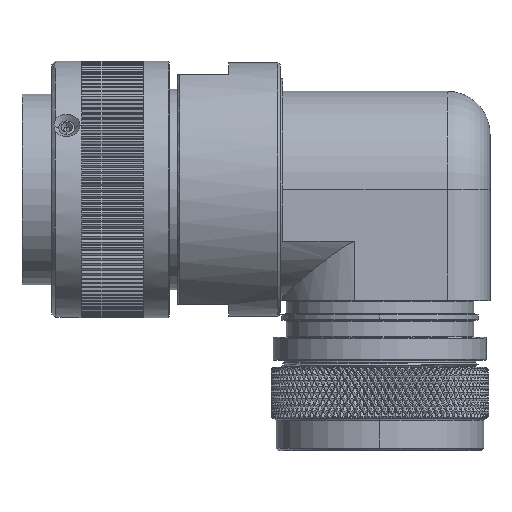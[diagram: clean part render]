
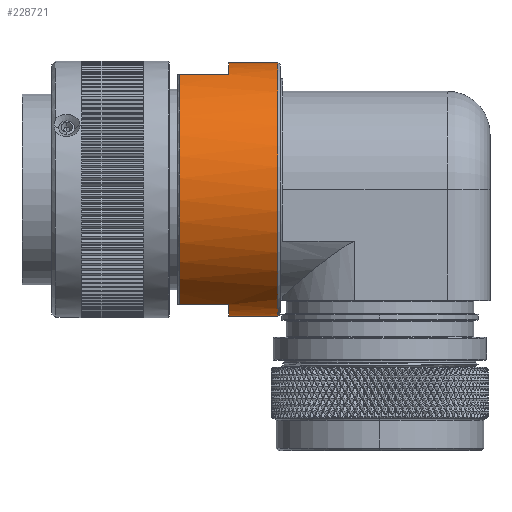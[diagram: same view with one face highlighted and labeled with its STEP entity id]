
A CAD part, top view. The second image highlights one B-rep face of the part: STEP entity #228721.
In plain terms, the highlighted cylindrical face has radius 29.75 mm (diameter 59.5 mm), a partial arc.
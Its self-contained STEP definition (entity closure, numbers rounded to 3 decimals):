
#78789=CARTESIAN_POINT('',(48.5,0.,0.));
#78790=DIRECTION('',(1.,0.,0.));
#78791=DIRECTION('',(0.,1.,0.));
#78792=AXIS2_PLACEMENT_3D('',#78789,#78790,#78791);
#78794=CARTESIAN_POINT('',(60.,0.,0.));
#78795=DIRECTION('',(-1.,0.,0.));
#78796=DIRECTION('',(0.,-1.,0.));
#78797=AXIS2_PLACEMENT_3D('',#78794,#78795,#78796);
#78799=CARTESIAN_POINT('',(48.5,0.,0.));
#78800=DIRECTION('',(1.,0.,0.));
#78801=DIRECTION('',(0.,-0.908,0.42));
#78802=AXIS2_PLACEMENT_3D('',#78799,#78800,#78801);
#78804=DIRECTION('',(1.,0.,0.));
#78805=VECTOR('',#78804,11.5);
#78806=CARTESIAN_POINT('',(37.,-27.,12.492));
#78807=LINE('13150',#78806,#78805);
#78808=CARTESIAN_POINT('',(37.,0.,0.));
#78809=DIRECTION('',(-1.,0.,0.));
#78810=DIRECTION('',(0.,-0.908,0.42));
#78811=AXIS2_PLACEMENT_3D('',#78808,#78809,#78810);
#78813=DIRECTION('',(1.,0.,0.));
#78814=VECTOR('',#78813,11.5);
#78815=CARTESIAN_POINT('',(37.,27.,12.492));
#78816=LINE('13149',#78815,#78814);
#78862=DIRECTION('',(-1.,0.,0.));
#78863=VECTOR('',#78862,11.5);
#78864=CARTESIAN_POINT('',(60.,-29.75,
0.));
#78865=LINE('13172',#78864,#78863);
#78871=DIRECTION('',(-1.,0.,0.));
#78872=VECTOR('',#78871,11.5);
#78873=CARTESIAN_POINT('',(60.,29.75,
0.));
#78874=LINE('13171',#78873,#78872);
#92554=CARTESIAN_POINT('',(48.5,29.75,0.));
#92555=CARTESIAN_POINT('',(48.5,27.,12.492));
#92556=VERTEX_POINT('',#92554);
#92557=VERTEX_POINT('',#92555);
#92558=CARTESIAN_POINT('',(48.5,-27.,12.492));
#92559=CARTESIAN_POINT('',(48.5,-29.75,0.));
#92560=VERTEX_POINT('',#92558);
#92561=VERTEX_POINT('',#92559);
#92562=CARTESIAN_POINT('',(37.,27.,12.492));
#92563=VERTEX_POINT('',#92562);
#92564=CARTESIAN_POINT('',(37.,-27.,12.492));
#92565=VERTEX_POINT('',#92564);
#92574=CARTESIAN_POINT('',(60.,-29.75,0.));
#92575=CARTESIAN_POINT('',(60.,29.75,0.));
#92576=VERTEX_POINT('',#92574);
#92577=VERTEX_POINT('',#92575);
#228699=CARTESIAN_POINT('',(35.3,0.,0.));
#228700=DIRECTION('',(1.,0.,0.));
#228701=DIRECTION('',(0.,-1.,0.));
#228702=AXIS2_PLACEMENT_3D('',#228699,#228700,#228701);
#228703=CYLINDRICAL_SURFACE('1823',#228702,29.75);
#228705=ORIENTED_EDGE('13147',*,*,#228704,.F.);
#228707=ORIENTED_EDGE('13171',*,*,#228706,.F.);
#228708=ORIENTED_EDGE('13157',*,*,#228682,.F.);
#228710=ORIENTED_EDGE('13172',*,*,#228709,.T.);
#228712=ORIENTED_EDGE('13148',*,*,#228711,.F.);
#228714=ORIENTED_EDGE('13150',*,*,#228713,.F.);
#228716=ORIENTED_EDGE('13168',*,*,#228715,.T.);
#228718=ORIENTED_EDGE('13149',*,*,#228717,.T.);
#228719=EDGE_LOOP('1823',(#228705,#228707,#228708,#228710,#228712,#228714,
#228716,#228718));
#228720=FACE_OUTER_BOUND('1823',#228719,.F.);
#78793=CIRCLE('13147',#78792,29.75);
#78798=CIRCLE('13157',#78797,29.75);
#78803=CIRCLE('13148',#78802,29.75);
#78812=CIRCLE('13168',#78811,29.75);
#228682=EDGE_CURVE('13157',#92576,#92577,#78798,.T.);
#228704=EDGE_CURVE('13147',#92556,#92557,#78793,.T.);
#228706=EDGE_CURVE('13171',#92577,#92556,#78874,.T.);
#228709=EDGE_CURVE('13172',#92576,#92561,#78865,.T.);
#228711=EDGE_CURVE('13148',#92560,#92561,#78803,.T.);
#228713=EDGE_CURVE('13150',#92565,#92560,#78807,.T.);
#228715=EDGE_CURVE('13168',#92565,#92563,#78812,.T.);
#228717=EDGE_CURVE('13149',#92563,#92557,#78816,.T.);
#228721=ADVANCED_FACE('1823',(#228720),#228703,.T.);
